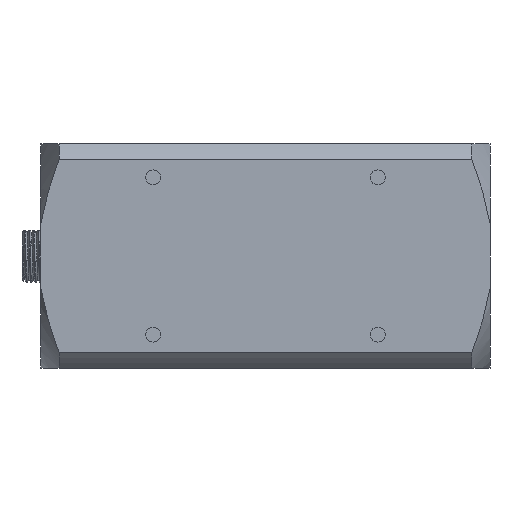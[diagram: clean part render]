
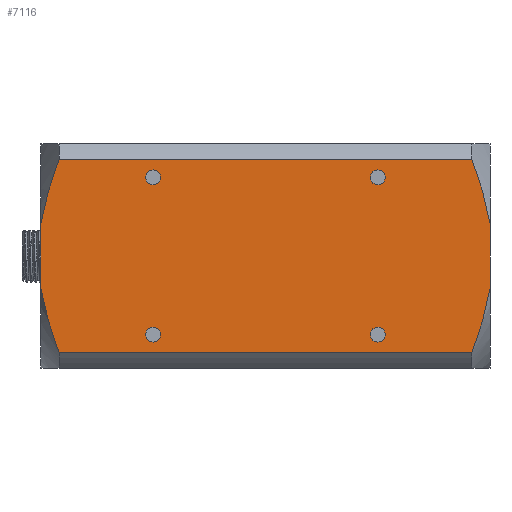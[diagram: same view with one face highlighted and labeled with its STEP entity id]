
A CAD part, front view. The second image highlights one B-rep face of the part: STEP entity #7116.
In plain terms, the highlighted planar face has unit normal (0, -1, 0).
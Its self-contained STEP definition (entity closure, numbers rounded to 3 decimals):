
#977=LINE('',#36308,#2977);
#979=LINE('',#36325,#2979);
#981=LINE('',#36340,#2981);
#983=LINE('',#36348,#2983);
#2977=VECTOR('',#29627,1.);
#2979=VECTOR('',#29641,1.);
#2981=VECTOR('',#29649,1.);
#2983=VECTOR('',#29659,1.);
#5516=FACE_BOUND('',#10148,.T.);
#5517=FACE_BOUND('',#10149,.T.);
#5518=FACE_BOUND('',#10150,.T.);
#5519=FACE_BOUND('',#10151,.T.);
#5520=FACE_BOUND('',#10152,.T.);
#6292=PLANE('',#27419);
#7116=ADVANCED_FACE('',(#5516,#5517,#5518,#5519,#5520),#6292,.T.);
#10148=EDGE_LOOP('',(#13126,#13127));
#10149=EDGE_LOOP('',(#13128,#13129));
#10150=EDGE_LOOP('',(#13130,#13131));
#10151=EDGE_LOOP('',(#13132,#13133));
#10152=EDGE_LOOP('',(#13134,#13135,#13136,#13137,#13138,#13139,#13140,#13141));
#12160=CIRCLE('',#27403,1.65);
#12161=CIRCLE('',#27405,1.65);
#12162=CIRCLE('',#27407,1.65);
#12163=CIRCLE('',#27409,1.65);
#12164=CIRCLE('',#27411,1.65);
#12165=CIRCLE('',#27413,1.65);
#12166=CIRCLE('',#27415,1.65);
#12167=CIRCLE('',#27417,1.65);
#13126=ORIENTED_EDGE('',*,*,#22800,.T.);
#13127=ORIENTED_EDGE('',*,*,#22798,.T.);
#13128=ORIENTED_EDGE('',*,*,#22796,.T.);
#13129=ORIENTED_EDGE('',*,*,#22794,.T.);
#13130=ORIENTED_EDGE('',*,*,#22792,.T.);
#13131=ORIENTED_EDGE('',*,*,#22790,.T.);
#13132=ORIENTED_EDGE('',*,*,#22788,.T.);
#13133=ORIENTED_EDGE('',*,*,#22786,.T.);
#13134=ORIENTED_EDGE('',*,*,#22781,.F.);
#13135=ORIENTED_EDGE('',*,*,#22801,.T.);
#13136=ORIENTED_EDGE('',*,*,#22764,.F.);
#13137=ORIENTED_EDGE('',*,*,#22762,.F.);
#13138=ORIENTED_EDGE('',*,*,#22771,.T.);
#13139=ORIENTED_EDGE('',*,*,#22772,.F.);
#13140=ORIENTED_EDGE('',*,*,#22776,.F.);
#13141=ORIENTED_EDGE('',*,*,#22726,.T.);
#20270=VERTEX_POINT('',#36193);
#20271=VERTEX_POINT('',#36194);
#20302=VERTEX_POINT('',#36300);
#20303=VERTEX_POINT('',#36305);
#20304=VERTEX_POINT('',#36309);
#20308=VERTEX_POINT('',#36324);
#20309=VERTEX_POINT('',#36331);
#20312=VERTEX_POINT('',#36347);
#20314=VERTEX_POINT('',#36360);
#20315=VERTEX_POINT('',#36362);
#20316=VERTEX_POINT('',#36368);
#20317=VERTEX_POINT('',#36370);
#20318=VERTEX_POINT('',#36376);
#20319=VERTEX_POINT('',#36378);
#20320=VERTEX_POINT('',#36384);
#20321=VERTEX_POINT('',#36386);
#22726=EDGE_CURVE('',#20270,#20271,#26360,.T.);
#22762=EDGE_CURVE('',#20302,#20303,#26370,.T.);
#22764=EDGE_CURVE('',#20303,#20304,#977,.T.);
#22771=EDGE_CURVE('',#20302,#20308,#979,.T.);
#22772=EDGE_CURVE('',#20309,#20308,#26372,.T.);
#22776=EDGE_CURVE('',#20270,#20309,#981,.T.);
#22781=EDGE_CURVE('',#20312,#20271,#983,.T.);
#22786=EDGE_CURVE('',#20315,#20314,#12160,.T.);
#22788=EDGE_CURVE('',#20314,#20315,#12161,.T.);
#22790=EDGE_CURVE('',#20317,#20316,#12162,.T.);
#22792=EDGE_CURVE('',#20316,#20317,#12163,.T.);
#22794=EDGE_CURVE('',#20319,#20318,#12164,.T.);
#22796=EDGE_CURVE('',#20318,#20319,#12165,.T.);
#22798=EDGE_CURVE('',#20321,#20320,#12166,.T.);
#22800=EDGE_CURVE('',#20320,#20321,#12167,.T.);
#22801=EDGE_CURVE('',#20312,#20304,#26375,.T.);
#26360=B_SPLINE_CURVE_WITH_KNOTS('',3,(#36189,#36190,#36191,#36192),
 .UNSPECIFIED.,.F.,.F.,(4,4),(0.,1.),.UNSPECIFIED.);
#26370=B_SPLINE_CURVE_WITH_KNOTS('',3,(#36301,#36302,#36303,#36304),
 .UNSPECIFIED.,.F.,.F.,(4,4),(0.,1.),.UNSPECIFIED.);
#26372=B_SPLINE_CURVE_WITH_KNOTS('',3,(#36327,#36328,#36329,#36330),
 .UNSPECIFIED.,.F.,.F.,(4,4),(0.,1.),.UNSPECIFIED.);
#26375=B_SPLINE_CURVE_WITH_KNOTS('',3,(#36391,#36392,#36393,#36394),
 .UNSPECIFIED.,.F.,.F.,(4,4),(0.,1.),.UNSPECIFIED.);
#27403=AXIS2_PLACEMENT_3D('',#36361,#29670,#29671);
#27405=AXIS2_PLACEMENT_3D('',#36365,#29675,#29676);
#27407=AXIS2_PLACEMENT_3D('',#36369,#29680,#29681);
#27409=AXIS2_PLACEMENT_3D('',#36373,#29685,#29686);
#27411=AXIS2_PLACEMENT_3D('',#36377,#29690,#29691);
#27413=AXIS2_PLACEMENT_3D('',#36381,#29695,#29696);
#27415=AXIS2_PLACEMENT_3D('',#36385,#29700,#29701);
#27417=AXIS2_PLACEMENT_3D('',#36389,#29705,#29706);
#27419=AXIS2_PLACEMENT_3D('',#36395,#29709,#29710);
#29627=DIRECTION('',(1.,0.,0.));
#29641=DIRECTION('',(0.,0.,-1.));
#29649=DIRECTION('',(-1.,0.,0.));
#29659=DIRECTION('',(0.,0.,-1.));
#29670=DIRECTION('',(0.,1.,0.));
#29671=DIRECTION('',(0.,0.,1.));
#29675=DIRECTION('',(0.,1.,0.));
#29676=DIRECTION('',(0.,0.,-1.));
#29680=DIRECTION('',(0.,1.,0.));
#29681=DIRECTION('',(0.,0.,1.));
#29685=DIRECTION('',(0.,1.,0.));
#29686=DIRECTION('',(0.,0.,-1.));
#29690=DIRECTION('',(0.,1.,0.));
#29691=DIRECTION('',(0.,0.,1.));
#29695=DIRECTION('',(0.,1.,0.));
#29696=DIRECTION('',(0.,0.,-1.));
#29700=DIRECTION('',(0.,1.,0.));
#29701=DIRECTION('',(0.,0.,1.));
#29705=DIRECTION('',(0.,1.,0.));
#29706=DIRECTION('',(0.,0.,-1.));
#29709=DIRECTION('',(0.,-1.,0.));
#29710=DIRECTION('',(0.,0.,1.));
#36189=CARTESIAN_POINT('',(90.959,-44.49,-341.041));
#36190=CARTESIAN_POINT('',(92.723,-44.49,-336.358));
#36191=CARTESIAN_POINT('',(94.214,-44.49,-331.599));
#36192=CARTESIAN_POINT('',(95.,-44.49,-326.641));
#36193=CARTESIAN_POINT('',(90.959,-44.49,-341.041));
#36194=CARTESIAN_POINT('',(95.,-44.49,-326.641));
#36300=CARTESIAN_POINT('',(-5.,-44.49,-312.359));
#36301=CARTESIAN_POINT('',(-5.,-44.49,-312.359));
#36302=CARTESIAN_POINT('',(-4.214,-44.49,-307.401));
#36303=CARTESIAN_POINT('',(-2.723,-44.49,-302.642));
#36304=CARTESIAN_POINT('',(-0.959,-44.49,-297.959));
#36305=CARTESIAN_POINT('',(-0.959,-44.49,-297.959));
#36308=CARTESIAN_POINT('',(-5.,-44.49,-297.959));
#36309=CARTESIAN_POINT('',(90.959,-44.49,-297.959));
#36324=CARTESIAN_POINT('',(-5.,-44.49,-326.641));
#36325=CARTESIAN_POINT('',(-5.,-44.49,-297.959));
#36327=CARTESIAN_POINT('',(-0.959,-44.49,-341.041));
#36328=CARTESIAN_POINT('',(-2.723,-44.49,-336.358));
#36329=CARTESIAN_POINT('',(-4.214,-44.49,-331.599));
#36330=CARTESIAN_POINT('',(-5.,-44.49,-326.641));
#36331=CARTESIAN_POINT('',(-0.959,-44.49,-341.041));
#36340=CARTESIAN_POINT('',(95.,-44.49,-341.041));
#36347=CARTESIAN_POINT('',(95.,-44.49,-312.359));
#36348=CARTESIAN_POINT('',(95.,-44.49,-297.959));
#36360=CARTESIAN_POINT('',(20.,-44.49,-303.65));
#36361=CARTESIAN_POINT('',(20.,-44.49,-302.));
#36362=CARTESIAN_POINT('',(20.,-44.49,-300.35));
#36365=CARTESIAN_POINT('',(20.,-44.49,-302.));
#36368=CARTESIAN_POINT('',(70.,-44.49,-338.65));
#36369=CARTESIAN_POINT('',(70.,-44.49,-337.));
#36370=CARTESIAN_POINT('',(70.,-44.49,-335.35));
#36373=CARTESIAN_POINT('',(70.,-44.49,-337.));
#36376=CARTESIAN_POINT('',(20.,-44.49,-338.65));
#36377=CARTESIAN_POINT('',(20.,-44.49,-337.));
#36378=CARTESIAN_POINT('',(20.,-44.49,-335.35));
#36381=CARTESIAN_POINT('',(20.,-44.49,-337.));
#36384=CARTESIAN_POINT('',(70.,-44.49,-303.65));
#36385=CARTESIAN_POINT('',(70.,-44.49,-302.));
#36386=CARTESIAN_POINT('',(70.,-44.49,-300.35));
#36389=CARTESIAN_POINT('',(70.,-44.49,-302.));
#36391=CARTESIAN_POINT('',(95.,-44.49,-312.359));
#36392=CARTESIAN_POINT('',(94.214,-44.49,-307.401));
#36393=CARTESIAN_POINT('',(92.723,-44.49,-302.642));
#36394=CARTESIAN_POINT('',(90.959,-44.49,-297.959));
#36395=CARTESIAN_POINT('',(95.,-44.49,-344.5));
